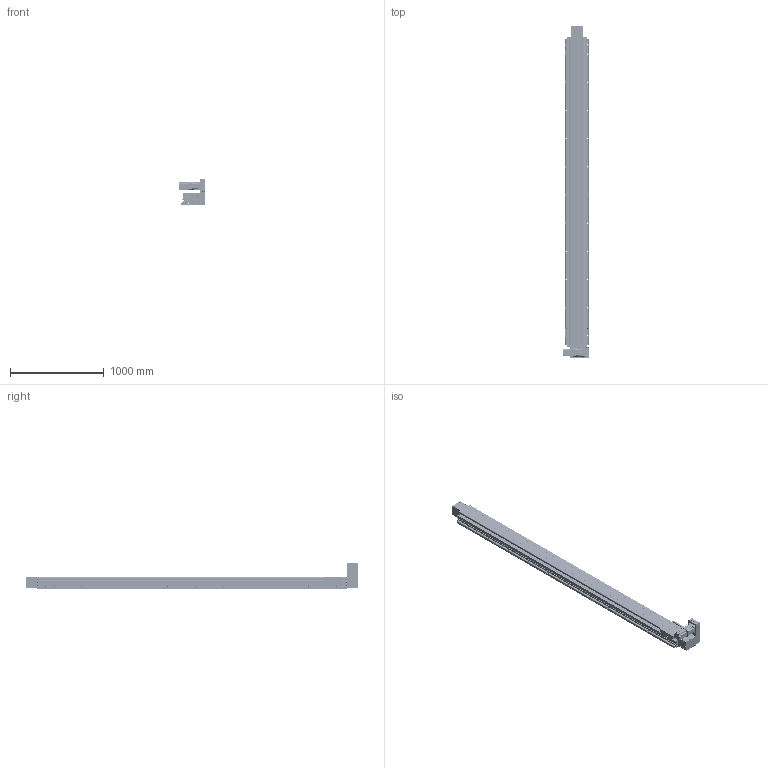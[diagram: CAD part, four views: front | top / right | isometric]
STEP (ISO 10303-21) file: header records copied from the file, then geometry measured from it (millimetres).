
FILE_DESCRIPTION(/* description */ (''),/* implementation_level */ '2;1');
FILE_NAME(/* name */ '\\192.168.0.160\disk1\HAN SHIN Master\B-설계부문\C-표준\B-2024년\BC02-표준도면\+로봇 개선표준도면\홈페이지 표준 도면\홈페이지 최종 작업 폴더\3D\HSB\HSB210\UR\HSB210-UR7G-N-3000-L.stp',/* time_stamp */ '2025-06-19T09:44:01+09:00',/* author */ ('user'),/* organization */ (''),/* preprocessor_version */ 'ST-DEVELOPER v18.1',/* originating_system */ 'Autodesk Inventor 2022',/* authorisation */ '');
FILE_SCHEMA (('AUTOMOTIVE_DESIGN { 1 0 10303 214 3 1 1 }'));
Products named in the file (37): HSB210-UR7G-N-0500-L; HSB210 BASE - 2000ST; HSB210 FORNT HOUSUNG-Connecting Shaft; HSB210 FRONT COVER; REAR HOUSUNG-1-R1; HSB160 ARC COVER; HSB160 REAR SHAFT-2; REAR SHAFT--2; 6004ZZ; 6004ZZ Outer ring; 6004ZZ Shield1; 6004ZZ Inner ring; 6004ZZ Ball; 6004ZZ Shield2; UPCOVER; SIDE COVER; hsr_ftht_A-M6F_grease_nipple_joint; NIPPLE CAP(신규); TENSION PLATE; HG90STOPPER - 27L; HSB210 TABLE (TEST); HSB160 BEARING OVER; HSB210 END COVER-1; HSB160 SHAFT-1; 6308ZZ; HR200 SENSOR DOG; SENSOR BRK(EE-SX674A); EE_SX674A; hg-kr73_; PGX90-H-1_3; HSB210 U MOTOR PLATE ASSY; HSB210 D BELT COVER-R1; HG200DACRYLCOVER003; 750W MOTOR PLATE; HSB210 U BELT COVER; HG200DACRYLCOVER001; HG200DACRYLCOVER002
Assembly tree (70 placements, depth 3):
  HSB210-UR7G-N-0500-L
    HSB210 BASE - 2000ST
    HSB210 FRONT COVER  x2
    HSB210 FORNT HOUSUNG-Connecting Shaft
    HSB160 ARC COVER  x4
    REAR HOUSUNG-1-R1
    HSB160 REAR SHAFT-2
    REAR SHAFT--2
    6004ZZ  x2
      6004ZZ Outer ring
      6004ZZ Shield1
      6004ZZ Inner ring
      6004ZZ Ball
      6004ZZ Shield2
    TENSION PLATE  x2
    UPCOVER
    SIDE COVER  x2
    HG90STOPPER - 27L  x4
    NIPPLE CAP(신규)  x4
    hsr_ftht_A-M6F_grease_nipple_joint  x4
    HSB210 TABLE (TEST)
    HSB160 BEARING OVER
    HSB210 END COVER-1
    HSB160 SHAFT-1
    6308ZZ  x2
    SENSOR BRK(EE-SX674A)  x3
    EE_SX674A  x3
    HR200 SENSOR DOG
    hg-kr73_
    PGX90-H-1_3
    HSB210 U MOTOR PLATE ASSY
      HSB210 D BELT COVER-R1
      HG200DACRYLCOVER003
      750W MOTOR PLATE
      HSB210 U BELT COVER
      HG200DACRYLCOVER001
      HG200DACRYLCOVER002  x2
Bounding box: 284.5 x 3534 x 278.5 mm (x, y, z)
Volume: 30835365 mm3; surface area: 6626314.2 mm2
Topology: 131 solids, 133 shells, 8113 faces, 22627 edges, 14939 vertices
Faces by surface type: plane 6115, cylinder 1436, cone 394, sphere 84, torus 59, bspline 25
Full cylindrical faces by diameter (mm): 2.013 x2, 2.459 x50, 3 x8, 3.2 x4, 3.242 x48, 3.4 x22, 3.5 x6, 4.134 x2, 4.2 x16, 4.5 x36, 4.917 x36, 5 x56, 5.1 x1, 5.5 x13, 5.6 x4, 5.9 x4, 6 x15, 6.5 x9, 6.6 x8, 6.647 x54, 6.8 x9, 7 x20, 7.6 x4, 8 x13, 8.433 x2, 9 x46, 9.5 x7, 10 x5, 10.106 x24, 11 x20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
Entity records: 179131 total; most frequent: CARTESIAN_POINT 34756, ORIENTED_EDGE 29912, DIRECTION 28740, EDGE_CURVE 14956, LINE 11512, VECTOR 11512, VERTEX_POINT 9964, AXIS2_PLACEMENT_3D 8614
